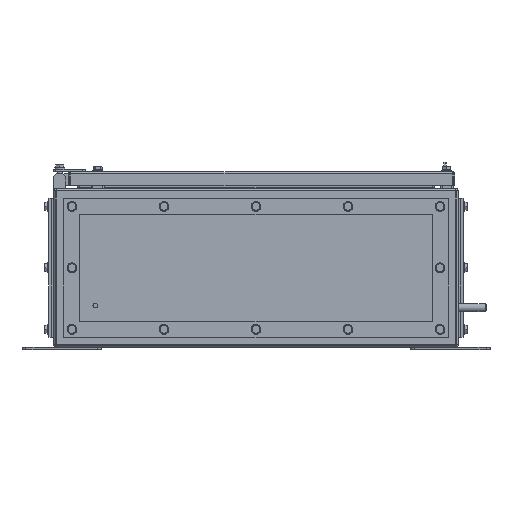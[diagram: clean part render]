
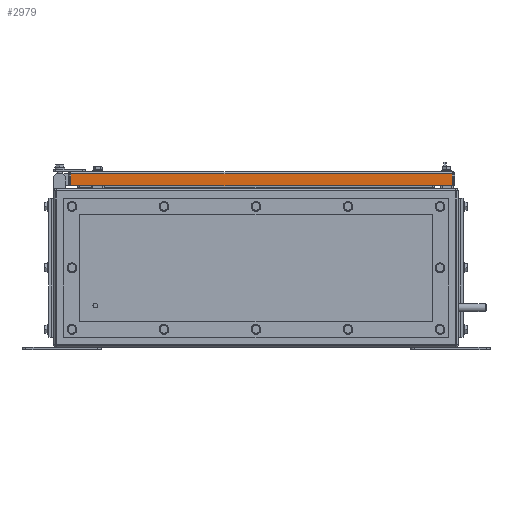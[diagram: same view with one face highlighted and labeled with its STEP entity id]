
A CAD part, front view. The second image highlights one B-rep face of the part: STEP entity #2979.
In plain terms, the highlighted planar face has unit normal (0, -1, 0).
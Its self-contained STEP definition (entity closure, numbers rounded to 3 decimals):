
#2274 = LINE ( 'NONE', #7732, #27952 ) ;
#2459 = ORIENTED_EDGE ( 'NONE', *, *, #20070, .T. ) ;
#2979 = ADVANCED_FACE ( 'NONE', ( #30056 ), #5009, .F. ) ;
#3558 = CARTESIAN_POINT ( 'NONE',  ( 14., -387., 18. ) ) ;
#5009 = PLANE ( 'NONE',  #25963 ) ;
#6603 = VECTOR ( 'NONE', #31172, 1000. ) ;
#7644 = VECTOR ( 'NONE', #33635, 1000. ) ;
#7732 = CARTESIAN_POINT ( 'NONE',  ( 495., -387., 18. ) ) ;
#8090 = DIRECTION ( 'NONE',  ( 0., 0., 1. ) ) ;
#8234 = CARTESIAN_POINT ( 'NONE',  ( 11., -387., 0. ) ) ;
#9939 = CARTESIAN_POINT ( 'NONE',  ( 495., -387., 0. ) ) ;
#11103 = CARTESIAN_POINT ( 'NONE',  ( 14., -387., 0. ) ) ;
#13352 = DIRECTION ( 'NONE',  ( 0., 0., 1. ) ) ;
#14386 = VERTEX_POINT ( 'NONE', #9939 ) ;
#17135 = VERTEX_POINT ( 'NONE', #29920 ) ;
#18563 = VECTOR ( 'NONE', #28083, 1000. ) ;
#19507 = ORIENTED_EDGE ( 'NONE', *, *, #34280, .T. ) ;
#20053 = CARTESIAN_POINT ( 'NONE',  ( 495., -387., 15. ) ) ;
#20070 = EDGE_CURVE ( 'NONE', #14386, #20334, #2274, .T. ) ;
#20094 = CARTESIAN_POINT ( 'NONE',  ( 11., -387., 15. ) ) ;
#20334 = VERTEX_POINT ( 'NONE', #20053 ) ;
#21836 = EDGE_CURVE ( 'NONE', #17135, #25560, #30808, .T. ) ;
#22229 = ORIENTED_EDGE ( 'NONE', *, *, #28155, .T. ) ;
#22417 = DIRECTION ( 'NONE',  ( 0., 1., 0. ) ) ;
#22566 = LINE ( 'NONE', #8234, #7644 ) ;
#25560 = VERTEX_POINT ( 'NONE', #11103 ) ;
#25963 = AXIS2_PLACEMENT_3D ( 'NONE', #35689, #22417, #8090 ) ;
#26070 = LINE ( 'NONE', #20094, #6603 ) ;
#26120 = ORIENTED_EDGE ( 'NONE', *, *, #21836, .T. ) ;
#27266 = EDGE_LOOP ( 'NONE', ( #22229, #2459, #19507, #26120 ) ) ;
#27952 = VECTOR ( 'NONE', #13352, 1000. ) ;
#28083 = DIRECTION ( 'NONE',  ( 0., 0., -1. ) ) ;
#28155 = EDGE_CURVE ( 'NONE', #25560, #14386, #22566, .T. ) ;
#29920 = CARTESIAN_POINT ( 'NONE',  ( 14., -387., 15. ) ) ;
#30056 = FACE_OUTER_BOUND ( 'NONE', #27266, .T. ) ;
#30808 = LINE ( 'NONE', #3558, #18563 ) ;
#31172 = DIRECTION ( 'NONE',  ( -1., 0., 0. ) ) ;
#33635 = DIRECTION ( 'NONE',  ( 1., 0., 0. ) ) ;
#34280 = EDGE_CURVE ( 'NONE', #20334, #17135, #26070, .T. ) ;
#35689 = CARTESIAN_POINT ( 'NONE',  ( 11., -387., 18. ) ) ;
